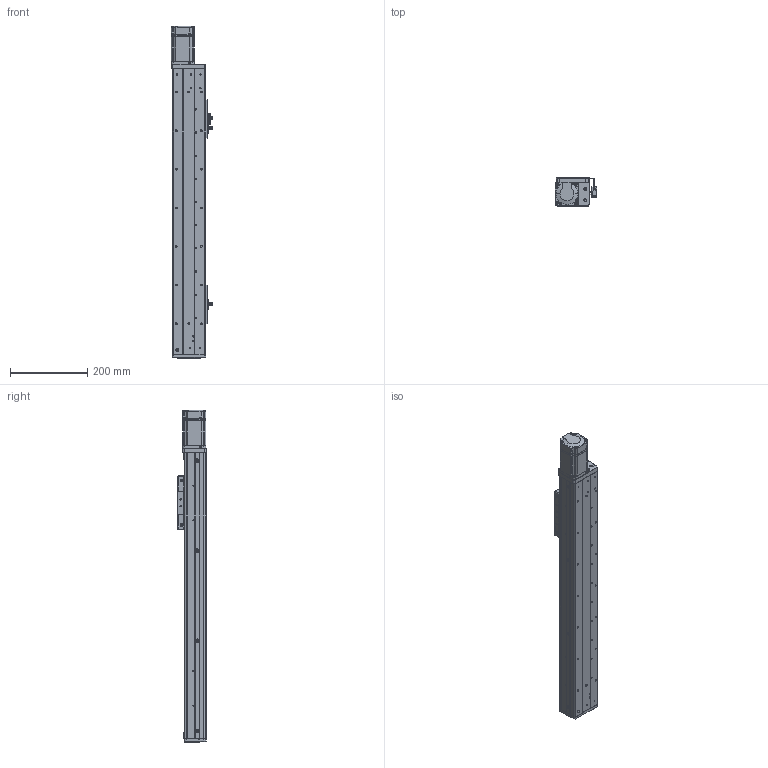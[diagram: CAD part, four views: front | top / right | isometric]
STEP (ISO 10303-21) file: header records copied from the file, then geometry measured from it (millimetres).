
FILE_DESCRIPTION (( 'STEP AP203' ), '1' );
FILE_NAME ('RY80F-L1610-300-MK.SLDASM_500.step', '2021-03-02T03:18:53', ( '盈信电脑' ), ( '东莞市道滘镇水果街19号' ), 'SwSTEP 2.0', 'SolidWorks 2012', '' );
FILE_SCHEMA (( 'CONFIG_CONTROL_DESIGN' ));
Length unit declared in the file: millimetre
Products named in the file (16): 滅袉蝶18-24; 蚥薯蝶紫輸; 672嫖萇羲壽假蚾釱; 1; RY80F-佪裝眻蟀ヶ裔啣(200W PCD70 M4); RY80F-詩湍揤踡輸; RY80F-綴裔啣(臏璃ㄘ; RY80F-丝杆铝滑块(16丝杆）; RY80F-300丝杆直连型材盖板_500; RY80F-滅鳥裔啣; RY80F-300-祥凄詩湍-MK_500; RY80F-丝杆直连型材底座_500; 侂狟200W萇儂; RY80俋离覜茼え; 覜茼ん672; RY80F-L1610-300-MK.SLDASM_500
Assembly tree (21 placements, depth 3):
  RY80F-L1610-300-MK.SLDASM_500
    RY80F-丝杆直连型材底座_500
    RY80F-300丝杆直连型材盖板_500  x2
    RY80F-丝杆铝滑块(16丝杆）
    RY80F-滅鳥裔啣
    RY80F-300-祥凄詩湍-MK_500
    RY80F-佪裝眻蟀ヶ裔啣(200W PCD70 M4)
    RY80F-詩湍揤踡輸  x2
    RY80F-綴裔啣(臏璃ㄘ
    672嫖萇羲壽假蚾釱  x2
    蚥薯蝶紫輸
    滅袉蝶18-24  x2
    侂狟200W萇儂
      1
    RY80俋离覜茼え
    覜茼ん672  x3
Bounding box: 107.2 x 75 x 860 mm (x, y, z)
Volume: 1722006.7 mm3; surface area: 662268 mm2
Topology: 20 solids, 20 shells, 1689 faces, 4656 edges, 3036 vertices
Faces by surface type: plane 803, cylinder 759, cone 109, bspline 18
Entity records: 48404 total; most frequent: CARTESIAN_POINT 10281, DIRECTION 7584, ORIENTED_EDGE 7584, EDGE_CURVE 3792, AXIS2_PLACEMENT_3D 2663, VERTEX_POINT 2488, LINE 2258, VECTOR 2258
